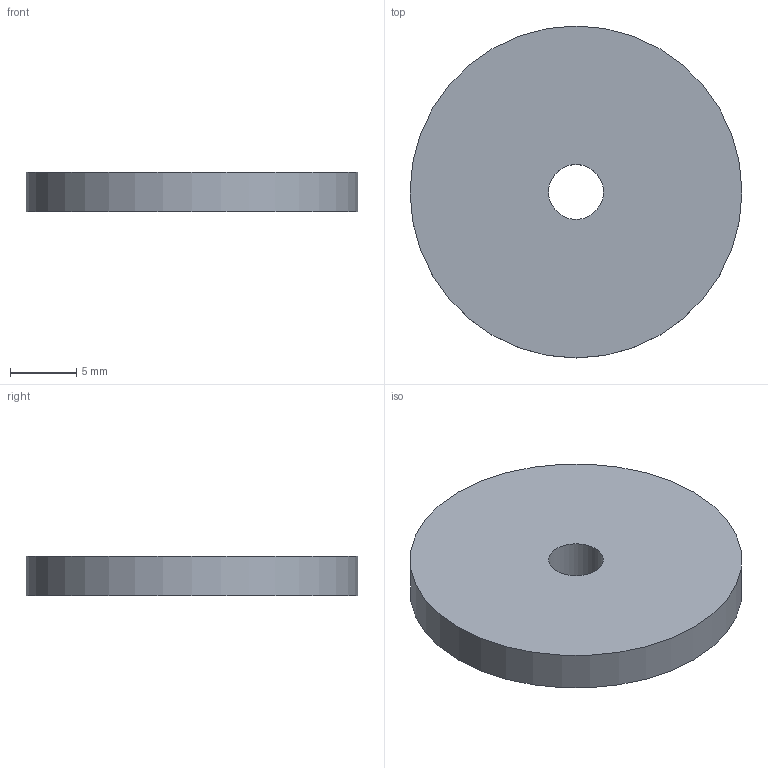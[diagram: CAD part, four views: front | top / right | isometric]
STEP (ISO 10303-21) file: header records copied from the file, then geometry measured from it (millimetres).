
FILE_DESCRIPTION( ( 'Unknown' ), '1' );
FILE_NAME( 'F:/navkite transat/construction/2016/3D ET ASSEMBLAGES/self tailing/WI 09.stp', 'Unknown', ( 'GMA' ), ( 'Unknown' ), 'XStep 1.0', 'Unknown', ' ' );
FILE_SCHEMA( ( 'automotive_design' ) );
Length unit declared in the file: millimetre
Products named in the file (1): 1
Bounding box: 25 x 25 x 3 mm (x, y, z)
Volume: 1432.4 mm3; surface area: 1229.5 mm2
Topology: 1 solids, 1 shells, 4 faces, 7 edges, 5 vertices
Faces by surface type: cylinder 2, plane 2
Full cylindrical faces by diameter (mm): 4.134 x1, 25 x1
Entity records: 136 total; most frequent: DIRECTION 18, CARTESIAN_POINT 13, AXIS2_PLACEMENT_3D 9, EDGE_LOOP 8, ORIENTED_EDGE 8, FACE_OUTER_BOUND 6, STYLED_ITEM 4, PRESENTATION_STYLE_ASSIGNMENT 4
